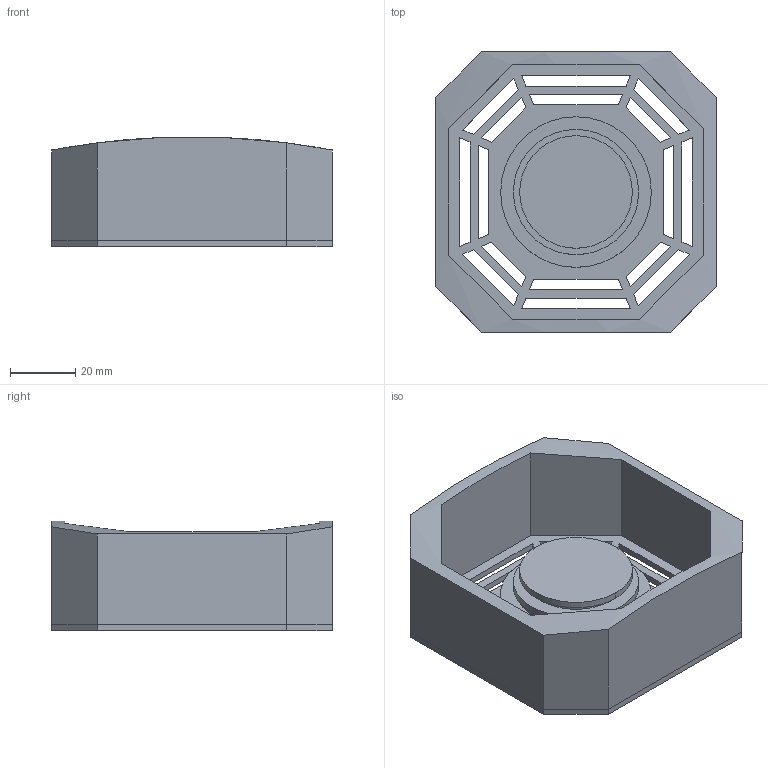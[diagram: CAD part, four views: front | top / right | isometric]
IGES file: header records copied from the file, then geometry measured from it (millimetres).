
Start section: 3D InterOp IGES (Version 21 0 3), Spatial Corp. Copyright (c) 1999-2007.
Global section: file name: CSR OCTAGON PORT ASSY ESB - 20140325.igs; native system: Spatial Corp.; preprocessor: 3D InterOp GENERIC/IGES 3.0; author: Noname; organization: Noname; date: 20140501.113557; units: inch
Bounding box: 85.72 x 85.72 x 33.56 mm (x, y, z)
Surface area: 39947.9 mm2 (no closed solid volume)
Topology: 0 solids, 0 shells, 111 faces, 600 edges, 600 vertices
Faces by surface type: extrusion 98, revolution 13
